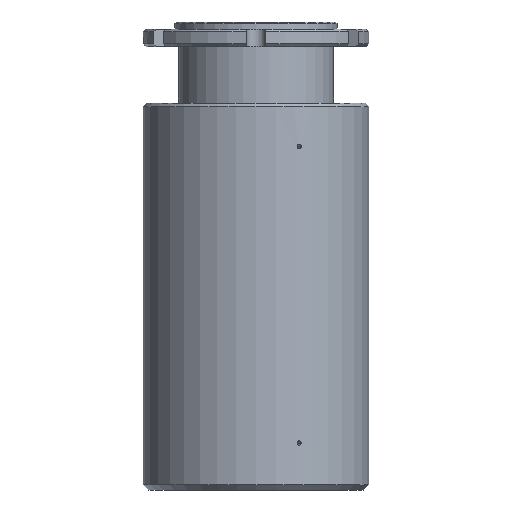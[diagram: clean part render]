
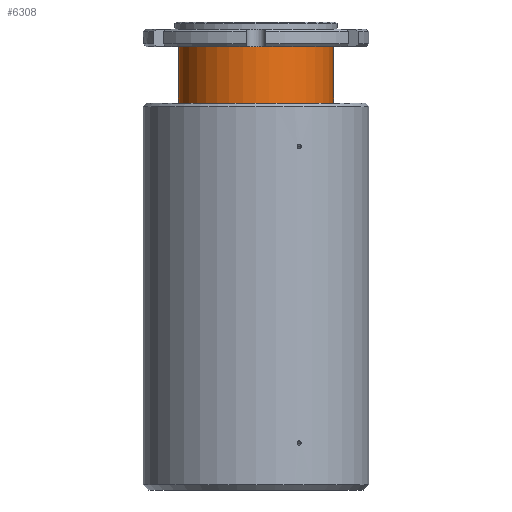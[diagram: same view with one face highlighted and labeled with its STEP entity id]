
A CAD part, front view. The second image highlights one B-rep face of the part: STEP entity #6308.
In plain terms, the highlighted cylindrical face has radius 34.925 mm (diameter 69.85 mm), a partial arc.
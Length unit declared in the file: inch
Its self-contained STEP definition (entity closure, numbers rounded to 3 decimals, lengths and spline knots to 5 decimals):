
#1784 = AXIS2_PLACEMENT_3D ( 'NONE', #6728, #6765, #6766 ) ;
#1873 = AXIS2_PLACEMENT_3D ( 'NONE', #6511, #6512, #6513 ) ;
#1875 = CIRCLE ( 'NONE', #1873, 1.375 ) ;
#3241 = VECTOR ( 'NONE', #9513, 39.37008 ) ;
#3425 = VECTOR ( 'NONE', #7248, 39.37008 ) ;
#3882 = CARTESIAN_POINT ( 'NONE',  ( -1.375, 0., -0.437 ) ) ;
#3889 = CARTESIAN_POINT ( 'NONE',  ( 1.375, 0., -0.437 ) ) ;
#3891 = CARTESIAN_POINT ( 'NONE',  ( 1.375, 0., -1.43705 ) ) ;
#3907 = CARTESIAN_POINT ( 'NONE',  ( -1.375, 0., -1.43705 ) ) ;
#5174 = AXIS2_PLACEMENT_3D ( 'NONE', #10061, #10062, #10063 ) ;
#5190 = CIRCLE ( 'NONE', #5174, 1.375 ) ;
#5903 = EDGE_CURVE ( 'NONE', #10325, #7668, #9511, .T. ) ;
#6004 = EDGE_CURVE ( 'NONE', #10325, #7681, #5190, .T. ) ;
#6260 = EDGE_CURVE ( 'NONE', #7668, #7678, #1875, .T. ) ;
#6308 = ADVANCED_FACE ( 'NONE', ( #6718 ), #6734, .T. ) ;
#6412 = EDGE_CURVE ( 'NONE', #7681, #7678, #7239, .T. ) ;
#6511 = CARTESIAN_POINT ( 'NONE',  ( 0., 0., -0.437 ) ) ;
#6512 = DIRECTION ( 'NONE',  ( 0., 0., 1. ) ) ;
#6513 = DIRECTION ( 'NONE',  ( 1., 0., 0. ) ) ;
#6718 = FACE_OUTER_BOUND ( 'NONE', #8714, .T. ) ;
#6728 = CARTESIAN_POINT ( 'NONE',  ( 0., 0., 0. ) ) ;
#6734 = CYLINDRICAL_SURFACE ( 'NONE', #1784, 1.375 ) ;
#6765 = DIRECTION ( 'NONE',  ( 0., 0., 1. ) ) ;
#6766 = DIRECTION ( 'NONE',  ( 1., 0., 0. ) ) ;
#7239 = LINE ( 'NONE', #7240, #3425 ) ;
#7240 = CARTESIAN_POINT ( 'NONE',  ( 1.375, 0., 0. ) ) ;
#7248 = DIRECTION ( 'NONE',  ( 0., 0., 1. ) ) ;
#7668 = VERTEX_POINT ( 'NONE', #3882 ) ;
#7678 = VERTEX_POINT ( 'NONE', #3889 ) ;
#7681 = VERTEX_POINT ( 'NONE', #3891 ) ;
#8278 = ORIENTED_EDGE ( 'NONE', *, *, #6260, .F. ) ;
#8279 = ORIENTED_EDGE ( 'NONE', *, *, #6412, .T. ) ;
#8280 = ORIENTED_EDGE ( 'NONE', *, *, #6004, .T. ) ;
#8281 = ORIENTED_EDGE ( 'NONE', *, *, #5903, .F. ) ;
#8714 = EDGE_LOOP ( 'NONE', ( #8281, #8280, #8279, #8278 ) ) ;
#9511 = LINE ( 'NONE', #9512, #3241 ) ;
#9512 = CARTESIAN_POINT ( 'NONE',  ( -1.375, 0., 0. ) ) ;
#9513 = DIRECTION ( 'NONE',  ( 0., 0., 1. ) ) ;
#10061 = CARTESIAN_POINT ( 'NONE',  ( 0., 0., -1.43705 ) ) ;
#10062 = DIRECTION ( 'NONE',  ( 0., 0., 1. ) ) ;
#10063 = DIRECTION ( 'NONE',  ( 1., 0., 0. ) ) ;
#10325 = VERTEX_POINT ( 'NONE', #3907 ) ;
